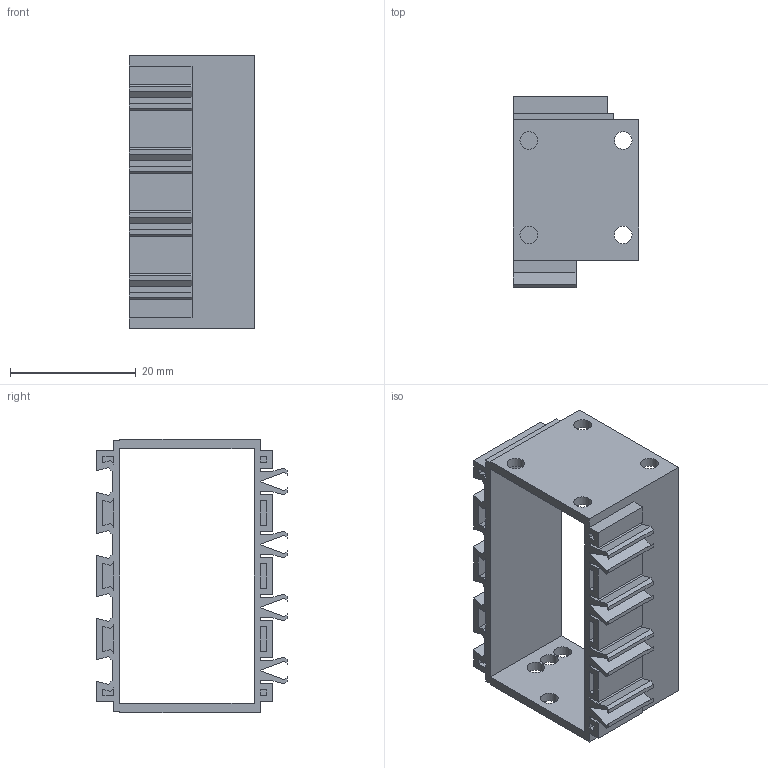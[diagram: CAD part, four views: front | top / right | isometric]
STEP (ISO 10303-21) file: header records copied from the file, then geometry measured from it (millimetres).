
FILE_DESCRIPTION(/* description */ (''),/* implementation_level */ '2;1');
FILE_NAME(/* name */ 'C:/Users/priba/Downloads/mrm-rd-5606hb-300HolderA .step',/* time_stamp */ '2021-07-11T07:57:51+02:00',/* author */ (''),/* organization */ (''),/* preprocessor_version */ 'ST-DEVELOPER v18.1',/* originating_system */ 'Autodesk Translation Framework v10.9.0.1377',/* authorisation */ '');
FILE_SCHEMA (('AUTOMOTIVE_DESIGN { 1 0 10303 214 3 1 1 }'));
Length unit declared in the file: millimetre
Products named in the file (1): mrm-rd-5606hb-300HolderA
Bounding box: 20 x 30.31 x 43.4 mm (x, y, z)
Volume: 4024.3 mm3; surface area: 7536.4 mm2
Topology: 1 solids, 1 shells, 188 faces, 530 edges, 353 vertices
Faces by surface type: plane 177, cylinder 11
Full cylindrical faces by diameter (mm): 2.8 x10, 2.82 x1
Entity records: 6038 total; most frequent: CARTESIAN_POINT 1072, ORIENTED_EDGE 1060, DIRECTION 930, EDGE_CURVE 530, LINE 508, VECTOR 508, VERTEX_POINT 353, EDGE_LOOP 221
